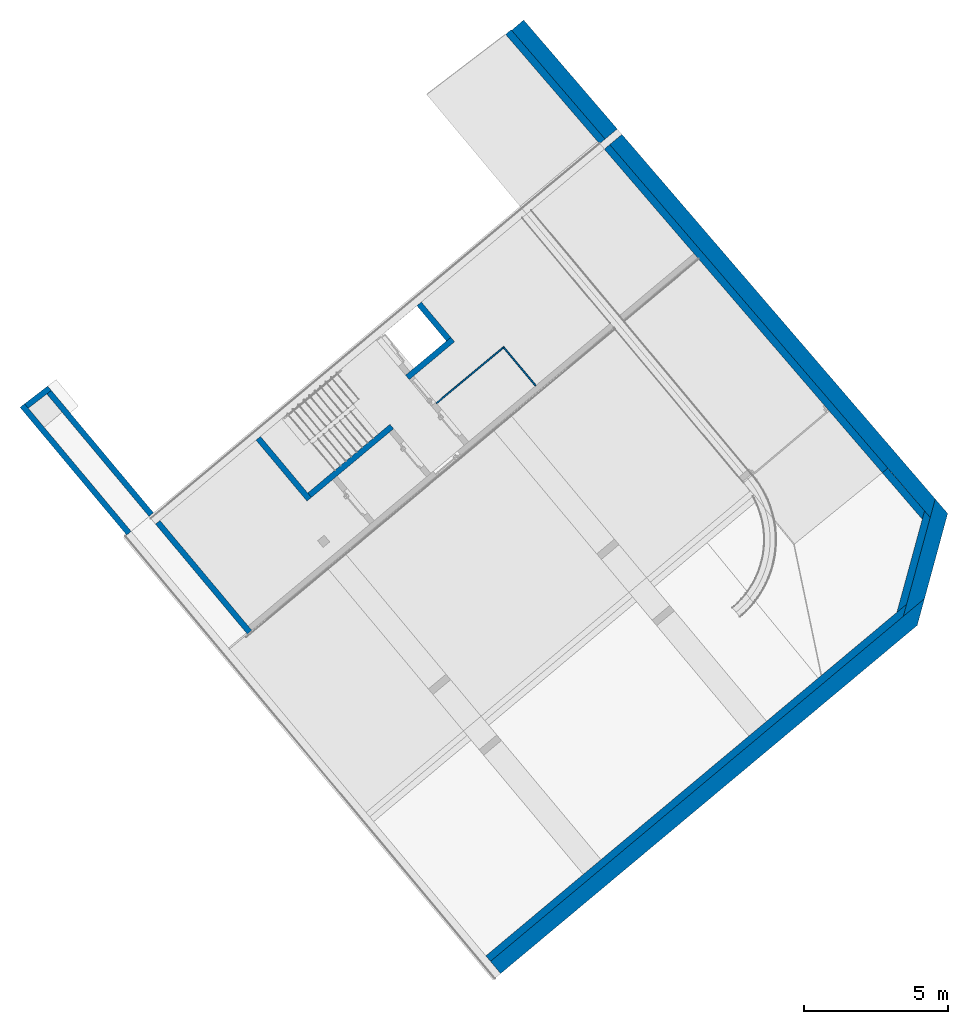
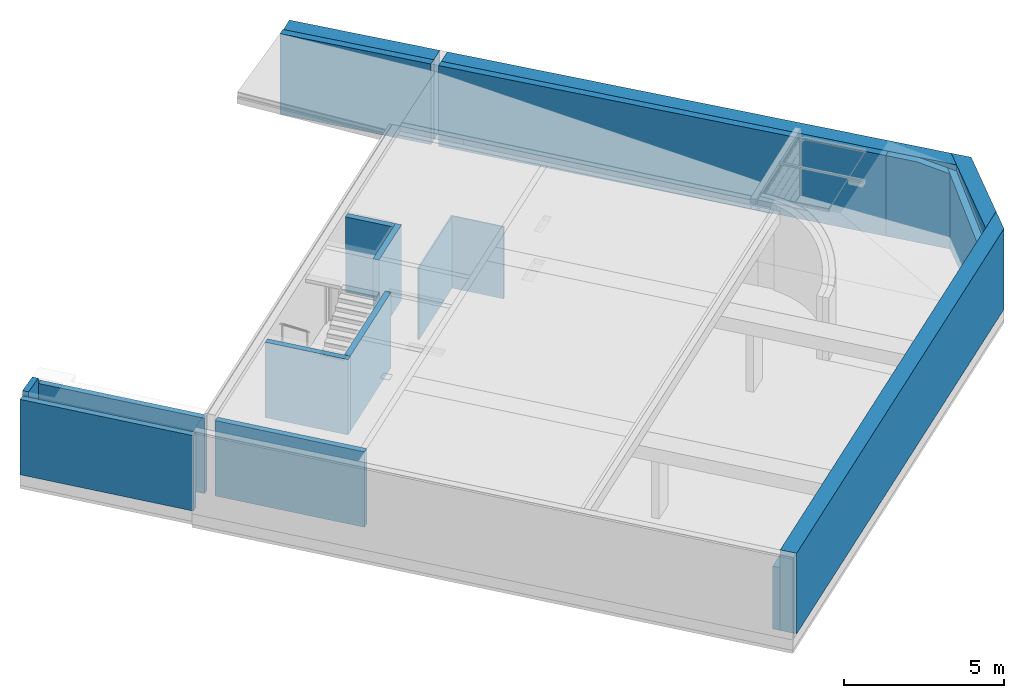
# One storey, part 7 of 14: 17 walls.
"""IFC4 building model written with IfcOpenShell, lengths in metres."""

from ifc_helpers import new_model, entity, si_unit, converted_unit, derived_unit, direction, frame, origin_with_axes, place, context, subcontext, project, spatial, polygons, material, type_object, element, save


model = new_model("IFC4")

# Units and contexts
model_context = context("Model", 3, precision=1e-05, world=origin_with_axes(), true_north=direction((0.0, 1.0)))
body_context = subcontext(model_context, "Body", "Model", "MODEL_VIEW")
ifc_project = project(units=[si_unit("LENGTHUNIT", "METRE"), si_unit("AREAUNIT", "SQUARE_METRE"), si_unit("VOLUMEUNIT", "CUBIC_METRE"), converted_unit("PLANEANGLEUNIT", "DEGREE", entity("IfcPlaneAngleMeasure", 0.0174532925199), si_unit("PLANEANGLEUNIT", "RADIAN"), dimensions=[0, 0, 0, 0, 0, 0, 0]), converted_unit("TIMEUNIT", "Year", entity("IfcTimeMeasure", 31556926.0), si_unit("TIMEUNIT", "SECOND"), dimensions=[0, 0, 1, 0, 0, 0, 0]), si_unit("MASSUNIT", "GRAM", prefix="KILO"), si_unit("THERMODYNAMICTEMPERATUREUNIT", "DEGREE_CELSIUS"), si_unit("LUMINOUSINTENSITYUNIT", "LUMEN"), si_unit("ENERGYUNIT", "JOULE", prefix="MEGA"), derived_unit("THERMALCONDUCTANCEUNIT", [(si_unit("POWERUNIT", "WATT"), 1), (si_unit("LENGTHUNIT", "METRE"), -1), (si_unit("THERMODYNAMICTEMPERATUREUNIT", "KELVIN"), -1)]), derived_unit("SPECIFICHEATCAPACITYUNIT", [(si_unit("ENERGYUNIT", "JOULE"), 1), (si_unit("MASSUNIT", "GRAM", prefix="KILO"), -1), (si_unit("THERMODYNAMICTEMPERATUREUNIT", "KELVIN"), -1)]), derived_unit("MASSDENSITYUNIT", [(si_unit("MASSUNIT", "GRAM", prefix="KILO"), 1), (si_unit("VOLUMEUNIT", "CUBIC_METRE"), -1)])], contexts=[model_context])

# Site, building, storey
site_placement = place(None, frame((-0.00153261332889, -0.00661245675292, 0.0), z_axis=(0.0, 0.0, 1.0), x_axis=(1.0, 0.0, 0.0)))
site = spatial("IfcSite", under=ifc_project, at=site_placement, Name="Gelände", CompositionType="ELEMENT")
building_placement = place(site_placement, origin_with_axes())
building = spatial("IfcBuilding", under=site, at=building_placement, Name="Gebäude", CompositionType="ELEMENT")
storey_placement = place(building_placement, frame((0.0, 0.0, -3.3), z_axis=(0.0, 0.0, 1.0), x_axis=(1.0, 0.0, 0.0)))
storey = spatial("IfcBuildingStorey", under=building, at=storey_placement, Name="UG1", CompositionType="ELEMENT", Elevation=-3.3)

# Walls
ifc_material_1 = material(Name="Stahlbeton Wand")
wall_type_1 = type_object("IfcWallType", Name="Stahlbeton Wand 250", PredefinedType="NOTDEFINED")
wall_1_placement = place(storey_placement, frame((18.2735300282, 16.4220240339, 0.0), z_axis=(0.0, 0.0, 1.0), x_axis=(0.262982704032, 0.964800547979, 0.0)))
element("IfcWall", 1, at=wall_1_placement, inside=storey, type_object=wall_type_1, material=ifc_material_1, Name="Wand-004", PredefinedType="NOTDEFINED", context=body_context, shape_type="Tessellation", body=[
    polygons([(3.48245363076, -0.250000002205, 2.84631194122), (3.65097897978, 0.0, 2.90379906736), (0.0, 0.0, 2.49711780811), (1.36267885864e-10, -0.250000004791, 2.45840266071), (3.48245363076, -0.250000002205, 0.0), (3.65097897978, 0.0, 0.0), (0.0, 0.0, 0.0), (0.0, 0.0, 2.4), (0.0, -0.25, 2.4), (0.358823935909, -0.25, 2.4), (0.358823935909, -0.25, 0.0)], [[[1, 2, 3, 4]], [[1, 5, 6, 2]], [[6, 7, 8, 3, 2]], [[3, 8, 9, 4]], [[1, 4, 9, 10, 11, 5]], [[5, 11, 7, 6]], [[11, 10, 8, 7]], [[10, 9, 8]]], closed=True),
])
wall_2_placement = place(storey_placement, frame((17.7691124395, 21.2660571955, 0.0), z_axis=(0.0, 0.0, 1.0), x_axis=(0.651731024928, -0.758450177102, 0.0)))
element("IfcWall", 2, at=wall_2_placement, inside=storey, type_object=wall_type_1, material=ifc_material_1, Name="Wand-004", PredefinedType="NOTDEFINED", context=body_context, shape_type="Tessellation", body=[
    polygons([(-3.6159635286e-07, 0.246189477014, 3.08), (1.03273894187, 0.24793201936, 3.07999999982), (1.9568428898, 0.24949126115, 2.90379906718), (1.95684288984, 0.249491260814, 0.0), (-3.6159635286e-07, 0.246189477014, 0.0), (0.0, 0.0, 3.08), (1.02561244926, 0.0, 3.08), (2.1256382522, 1.96070715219e-10, 2.87024548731), (2.12563825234, 0.0, 0.0), (0.0, 0.0, 0.0)], [[[1, 2, 3, 4, 5]], [[6, 7, 2, 1]], [[7, 8, 3, 2]], [[4, 3, 8, 9]], [[9, 10, 5, 4]], [[10, 6, 1, 5]], [[9, 8, 7, 6, 10]]], closed=True),
])

# Space
space_placement = place(storey_placement, frame((8.06468449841, 7.8893759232, 0.0), z_axis=(0.0, 0.0, 1.0), x_axis=(-0.641209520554, 0.767365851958, 0.0)))
space = spatial("IfcSpace", under=storey, at=space_placement, Name="1", CompositionType="ELEMENT", PredefinedType="INTERNAL")

# Walls
wall_3_placement = place(space_placement, frame((-1.75607084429e-10, 5.30055395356, 0.0), z_axis=(0.0, 0.0, 1.0), x_axis=(8.88889173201e-05, -0.999999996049, 0.0)))
element("IfcWall", 3, at=wall_3_placement, inside=space, type_object=wall_type_1, material=ifc_material_1, Name="Wand-003", PredefinedType="NOTDEFINED", context=body_context, shape_type="Tessellation", body=[
    polygons([(19.0430153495, 0.0, 0.0), (18.6841914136, -0.25, 0.0), (-2.22222971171e-05, -0.25, 0.0), (0.0, 0.0, 0.0), (19.0430153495, 0.0, 2.4), (18.6841914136, -0.25, 2.4), (-2.22222971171e-05, -0.25, 2.4), (0.0, 0.0, 2.4)], [[[1, 2, 3, 4]], [[2, 1, 5, 6]], [[2, 6, 7, 3]], [[8, 4, 3, 7]], [[5, 1, 4, 8]], [[6, 5, 8, 7]]], closed=True),
])
wall_type_2 = type_object("IfcWallType", Name="Stahlbeton Wand 200", PredefinedType="NOTDEFINED")
wall_4_placement = place(storey_placement, frame((1.37887022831, 27.3398542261, 0.0), z_axis=(0.0, 0.0, 1.0), x_axis=(0.641264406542, -0.767319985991, 0.0)))
element("IfcWall", 4, at=wall_4_placement, inside=storey, type_object=wall_type_2, material=ifc_material_1, Name="Wand-011", PredefinedType="NOTDEFINED", context=body_context, shape_type="Tessellation", body=[
    polygons([(1.94999809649, 0.2, 0.0), (1.94998379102, 0.0, 0.0), (0.350000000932, 0.0, 0.0), (0.350014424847, 0.2, 0.0), (1.94999809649, 0.2, 2.88), (1.94998379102, 0.0, 2.88), (0.350000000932, 0.0, 2.88), (0.350014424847, 0.2, 2.88)], [[[1, 2, 3, 4]], [[2, 1, 5, 6]], [[2, 6, 7, 3]], [[8, 4, 3, 7]], [[5, 1, 4, 8]], [[6, 5, 8, 7]]], closed=True),
])
wall_5_placement = place(storey_placement, frame((1.20911513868, 24.656867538, 0.0), z_axis=(0.0, 0.0, 1.0), x_axis=(0.767365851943, 0.641209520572, 0.0)))
element("IfcWall", 5, at=wall_5_placement, inside=storey, type_object=wall_type_2, material=ifc_material_1, Name="Wand-010", PredefinedType="NOTDEFINED", context=body_context, shape_type="Tessellation", body=[
    polygons([(2.05077465, -0.2, 2.88), (2.05076034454, 0.0, 2.88), (0.0, 0.0, 2.88), (0.0, -0.2, 2.88), (2.05077465, -0.2, 0.0), (2.05076034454, 0.0, 0.0), (0.0, 0.0, 0.0), (0.0, -0.2, 0.0)], [[[1, 2, 3, 4]], [[2, 1, 5, 6]], [[2, 6, 7, 3]], [[8, 4, 3, 7]], [[5, 1, 4, 8]], [[6, 5, 8, 7]]], closed=True),
])
wall_6_placement = place(storey_placement, frame((-7.47588571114, 19.485031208, 0.0), z_axis=(0.0, 0.0, 1.0), x_axis=(0.641191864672, -0.767380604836, 0.0)))
element("IfcWall", 6, at=wall_6_placement, inside=storey, type_object=wall_type_2, material=ifc_material_1, Name="Wand-006", PredefinedType="NOTDEFINED", context=body_context, shape_type="Tessellation", body=[
    polygons([(0.0, 0.2, 0.0), (4.9772347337, 0.2, 0.0), (4.97723933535, 0.0, 0.0), (0.0, 0.0, 0.0), (0.0, 0.2, 2.88), (4.9772347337, 0.2, 2.88), (4.97723933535, 0.0, 2.88), (0.0, 0.0, 2.88)], [[[1, 2, 3, 4]], [[5, 6, 2, 1]], [[7, 3, 2, 6]], [[4, 3, 7, 8]], [[8, 5, 1, 4]], [[8, 7, 6, 5]]], closed=True),
])
wall_7_placement = place(storey_placement, frame((-2.21530068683, 20.2847748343, 0.0), z_axis=(0.0, 0.0, 1.0), x_axis=(0.767365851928, 0.64120952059, 0.0)))
element("IfcWall", 7, at=wall_7_placement, inside=storey, type_object=wall_type_2, material=ifc_material_1, Name="Wand-004", PredefinedType="NOTDEFINED", context=body_context, shape_type="Tessellation", body=[
    polygons([(3.92113772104, 0.2, 0.0), (3.92113772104, 0.0, 0.0), (0.2, 0.0, 0.0), (0.200000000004, 0.2, 0.0), (3.92113772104, 0.2, 2.88), (3.92113772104, 0.0, 2.88), (0.2, 0.0, 2.88), (0.200000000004, 0.2, 2.88)], [[[1, 2, 3, 4]], [[2, 1, 5, 6]], [[2, 6, 7, 3]], [[8, 4, 3, 7]], [[5, 1, 4, 8]], [[6, 5, 8, 7]]], closed=True),
])
wall_8_placement = place(storey_placement, frame((-4.2089587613, 22.6706800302, 0.0), z_axis=(0.0, 0.0, 1.0), x_axis=(0.641209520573, -0.767365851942, 0.0)))
element("IfcWall", 8, at=wall_8_placement, inside=storey, type_object=wall_type_2, material=ifc_material_1, Name="Wand-003", PredefinedType="NOTDEFINED", context=body_context, shape_type="Tessellation", body=[
    polygons([(3.10921471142, 0.2, 0.0), (3.10921471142, 0.0, 0.0), (0.349999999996, 0.0, 0.0), (0.350000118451, 0.2, 0.0), (3.10921471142, 0.2, 2.88), (3.10921471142, 0.0, 2.88), (0.349999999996, 0.0, 2.88), (0.350000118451, 0.2, 2.88)], [[[1, 2, 3, 4]], [[2, 1, 5, 6]], [[2, 6, 7, 3]], [[8, 4, 3, 7]], [[5, 1, 4, 8]], [[6, 5, 8, 7]]], closed=True),
])
wall_9_placement = place(storey_placement, frame((-11.2521443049, 24.004259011, 0.0), z_axis=(0.0, 0.0, 1.0), x_axis=(0.64120952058, -0.767365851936, 0.0)))
element("IfcWall", 9, at=wall_9_placement, inside=storey, type_object=wall_type_2, material=ifc_material_1, Name="Wand-003", PredefinedType="NOTDEFINED", context=body_context, shape_type="Tessellation", body=[
    polygons([(0.00811471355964, 0.2, 2.88), (1.02605691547, 0.199999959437, 2.88), (5.5394980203, 0.199999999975, 2.88), (5.53949802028, 0.2, 0.0), (0.00811471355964, 0.2, 0.0), (0.0, 9.45799172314e-09, 2.88), (0.826056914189, 1.06634736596e-08, 2.88), (5.53949802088, 0.0, 2.88), (5.53949790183, 0.0, 0.0), (0.0, 0.0, 0.0)], [[[1, 2, 3, 4, 5]], [[6, 7, 8, 3, 2, 1]], [[4, 3, 8, 9]], [[5, 4, 9, 10]], [[10, 6, 1, 5]], [[8, 7, 6, 10, 9]]], closed=True),
])
wall_10_placement = place(storey_placement, frame((-11.8951769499, 23.5097960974, 0.0), z_axis=(0.0, 0.0, 1.0), x_axis=(0.792729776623, 0.609573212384, 0.0)))
element("IfcWall", 10, at=wall_10_placement, inside=storey, type_object=wall_type_2, material=ifc_material_1, Name="Wand-003", PredefinedType="NOTDEFINED", context=body_context, shape_type="Tessellation", body=[
    polygons([(1.00321231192, 0.2, 0.0), (1.00321231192, 0.199999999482, 2.88), (1.01132702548, 0.0, 2.88), (1.01132702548, 0.0, 0.0), (0.803047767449, 0.199999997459, 3.08), (0.803047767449, 0.199999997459, 2.88), (-0.00811471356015, 0.2, 0.0), (-0.00811471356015, 0.199999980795, 2.88), (-0.00314913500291, 0.199999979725, 2.88), (-0.00314913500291, 0.199999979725, 3.08), (0.811162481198, 0.0, 2.88), (0.811162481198, 0.0, 3.08), (0.00496557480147, 0.0, 3.08), (0.00496557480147, 0.0, 2.88), (0.0, 0.0, 2.88), (0.0, 0.0, 0.0)], [[[1, 2, 3, 4]], [[5, 6, 2, 1, 7, 8, 9, 10]], [[6, 11, 3, 2]], [[3, 11, 12, 13, 14, 15, 16, 4]], [[7, 1, 4, 16]], [[6, 5, 12, 11]], [[16, 15, 8, 7]], [[8, 15, 14, 9]], [[9, 14, 13, 10]], [[13, 12, 5, 10]]], closed=True),
])
wall_11_placement = place(storey_placement, frame((-8.32211210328, 19.233739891, 0.0), z_axis=(0.0, 0.0, 1.0), x_axis=(-0.641209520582, 0.767365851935, 0.0)))
element("IfcWall", 11, at=wall_11_placement, inside=storey, type_object=wall_type_2, material=ifc_material_1, Name="Wand-002", PredefinedType="NOTDEFINED", context=body_context, shape_type="Tessellation", body=[
    polygons([(5.7725472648, 0.0, 0.0), (5.77254724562, 7.78592301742e-10, 2.88), (-1.12168514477e-08, 0.0, 2.88), (0.0, 0.0, 0.0), (5.78066197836, 0.2, 0.0), (5.7806620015, 0.199999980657, 2.88), (-1.17975886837e-08, 0.199999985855, 2.88), (0.0, 0.2, 0.0)], [[[1, 2, 3, 4]], [[5, 6, 2, 1]], [[6, 7, 3, 2]], [[4, 3, 7, 8]], [[8, 5, 1, 4]], [[8, 7, 6, 5]]], closed=True),
])
ifc_material_2 = material(Name="Aluminium")
wall_type_3 = type_object("IfcWallType", Name="Aluminium 50", PredefinedType="NOTDEFINED")
wall_12_placement = place(storey_placement, frame((4.60874776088, 25.5946881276, 0.0), z_axis=(0.0, 0.0, 1.0), x_axis=(0.641209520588, -0.767365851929, 0.0)))
element("IfcWall", 12, at=wall_12_placement, inside=storey, type_object=wall_type_3, material=ifc_material_2, Name="Wand-009", PredefinedType="NOTDEFINED", context=body_context, shape_type="Tessellation", body=[
    polygons([(0.0, 0.0, 2.75), (1.71679938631, 0.0, 2.75), (1.71679938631, 0.05, 2.75), (0.0, 0.05, 2.75), (0.0, 0.0, 0.0), (1.71679938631, 0.0, 0.0), (1.71679938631, 0.05, 0.0), (0.0, 0.05, 0.0)], [[[1, 2, 3, 4]], [[5, 6, 2, 1]], [[6, 7, 3, 2]], [[4, 3, 7, 8]], [[5, 1, 4, 8]], [[8, 7, 6, 5]]], closed=True),
])
wall_13_placement = place(storey_placement, frame((2.29889251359, 23.6645772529, 0.0), z_axis=(0.0, 0.0, 1.0), x_axis=(0.767365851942, 0.641209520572, 0.0)))
element("IfcWall", 13, at=wall_13_placement, inside=storey, type_object=wall_type_3, material=ifc_material_2, Name="Wand-008", PredefinedType="NOTDEFINED", context=body_context, shape_type="Tessellation", body=[
    polygons([(3.06010950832, 0.05, 0.0), (3.06010950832, 0.0, 0.0), (0.0, 0.0, 0.0), (0.0, 0.05, 0.0), (3.06010950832, 0.05, 2.75), (3.06010950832, 0.0, 2.75), (0.0, 0.0, 2.75), (0.0, 0.05, 2.75)], [[[1, 2, 3, 4]], [[2, 1, 5, 6]], [[2, 6, 7, 3]], [[8, 4, 3, 7]], [[5, 1, 4, 8]], [[6, 5, 8, 7]]], closed=True),
])
ifc_material_3 = material(Name="Stahlbeton Decke Garage")
wall_type_4 = type_object("IfcWallType", Name="Stahlbeton Decke Garage 250", PredefinedType="NOTDEFINED")
wall_14_placement = place(storey_placement, frame((17.9587249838, 21.4289899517, 0.0), z_axis=(0.0, 0.0, 1.0), x_axis=(-0.651731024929, 0.758450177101, 0.0)))
element("IfcWall", 14, at=wall_14_placement, inside=storey, type_object=wall_type_4, material=ifc_material_3, Name="Wand-004", PredefinedType="NOTDEFINED", context=body_context, shape_type="Tessellation", body=[
    polygons([(20.0772937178, 0.25, 3.08), (15.0718320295, 0.25, 3.08), (15.0683838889, 0.0, 3.08), (20.0772937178, 0.0, 3.08), (20.0772937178, 0.25, 0.0), (15.0718320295, 0.25, 0.0), (15.0683838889, 0.0, 0.0), (20.0772937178, 0.0, 0.0)], [[[1, 2, 3, 4]], [[5, 6, 2, 1]], [[6, 7, 3, 2]], [[4, 3, 7, 8]], [[4, 8, 5, 1]], [[8, 7, 6, 5]]], closed=True),
    polygons([(0.0, 0.0, 0.0), (14.8183601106, 0.0, 0.0), (14.8183601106, 0.0, 3.08), (0.0, 0.0, 3.08), (0.0, 0.25, 0.0), (14.8218082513, 0.25, 0.0), (14.8218082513, 0.25, 3.08), (0.0, 0.25, 3.08)], [[[1, 2, 3, 4]], [[5, 6, 2, 1]], [[6, 7, 3, 2]], [[4, 3, 7, 8]], [[4, 8, 5, 1]], [[8, 7, 6, 5]]], closed=True),
])
ifc_material_4 = material(Name="Stahlbeton Wand Garage")
wall_type_5 = type_object("IfcWallType", Name="Stahlbeton Wand Garage 550", PredefinedType="NOTDEFINED")
wall_15_placement = place(storey_placement, frame((19.4305552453, 19.716151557, 0.0), z_axis=(0.0, 0.0, 1.0), x_axis=(-0.651731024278, 0.758450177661, 0.0)))
element("IfcWall", 15, at=wall_15_placement, inside=storey, type_object=wall_type_5, material=ifc_material_4, Name="Wand-004", PredefinedType="NOTDEFINED", context=body_context, shape_type="Tessellation", body=[
    polygons([(22.3076885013, 0.0, 3.08), (17.3267239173, -1.26441079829e-10, 3.08), (17.3191380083, -0.55, 3.08), (22.3076885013, -0.55, 3.08), (22.3076885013, 0.0, 0.0), (17.3267239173, -1.2645173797e-10, 0.0), (17.3191380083, -0.55, 0.0), (22.3076885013, -0.55, 0.0)], [[[1, 2, 3, 4]], [[5, 6, 2, 1]], [[6, 7, 3, 2]], [[4, 3, 7, 8]], [[5, 1, 4, 8]], [[8, 7, 6, 5]]], closed=True),
    polygons([(0.372107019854, -0.55, 0.0), (17.0691142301, -0.55, 0.0), (17.0691142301, -0.55, 3.08), (0.372107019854, -0.55, 3.08), (3.83122866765e-10, -5.66288349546e-10, 0.0), (17.0767001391, -1.327968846e-10, 0.0), (17.0767001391, -1.32786226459e-10, 3.08), (3.83122866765e-10, -5.66288349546e-10, 3.08)], [[[1, 2, 3, 4]], [[5, 6, 2, 1]], [[6, 7, 3, 2]], [[4, 3, 7, 8]], [[5, 1, 4, 8]], [[8, 7, 6, 5]]], closed=True),
])
wall_16_placement = place(storey_placement, frame((18.4940853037, 16.2805388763, 0.0), z_axis=(0.0, 0.0, 1.0), x_axis=(0.26298270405, 0.964800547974, 0.0)))
element("IfcWall", 16, at=wall_16_placement, inside=storey, type_object=wall_type_5, material=ifc_material_4, Name="Wand-003", PredefinedType="NOTDEFINED", context=body_context, shape_type="Tessellation", body=[
    polygons([(3.85290030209, -0.55, 3.08), (4.22500732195, 0.0, 3.08), (0.0, 0.0, 3.08), (0.78940916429, -0.55, 3.08), (3.85290030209, -0.55, 0.0), (4.22500732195, 0.0, 0.0), (0.0, 0.0, 0.0), (0.78940916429, -0.55, 0.0)], [[[1, 2, 3, 4]], [[2, 1, 5, 6]], [[2, 6, 7, 3]], [[8, 4, 3, 7]], [[5, 1, 4, 8]], [[6, 5, 8, 7]]], closed=True),
])
wall_17_placement = place(storey_placement, frame((4.15749790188, 4.29879857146, 0.0), z_axis=(0.0, 0.0, 1.0), x_axis=(0.767310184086, 0.64127613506, 0.0)))
element("IfcWall", 17, at=wall_17_placement, inside=storey, type_object=wall_type_5, material=ifc_material_4, Name="Wand-002", PredefinedType="NOTDEFINED", context=body_context, shape_type="Tessellation", body=[
    polygons([(18.8569202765, -0.55, 3.08), (19.6463294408, 0.0, 3.08), (0.0, 0.0, 3.08), (-4.77468328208e-05, -0.55, 3.08), (18.8569202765, -0.55, 0.0), (19.6463294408, 0.0, 0.0), (0.0, 0.0, 0.0), (-4.77468328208e-05, -0.55, 0.0)], [[[1, 2, 3, 4]], [[2, 1, 5, 6]], [[2, 6, 7, 3]], [[8, 4, 3, 7]], [[5, 1, 4, 8]], [[6, 5, 8, 7]]], closed=True),
])

save(model, "model.ifc")
